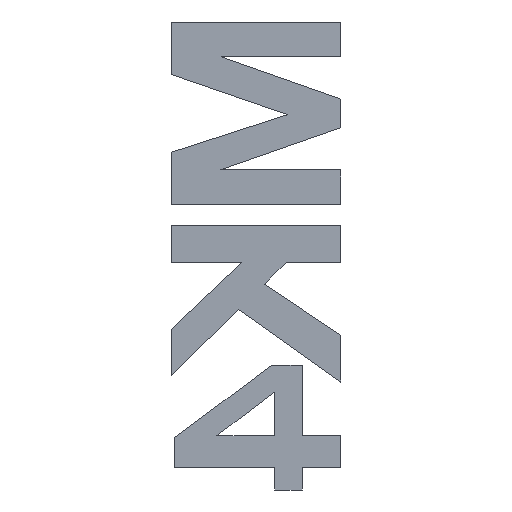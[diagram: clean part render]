
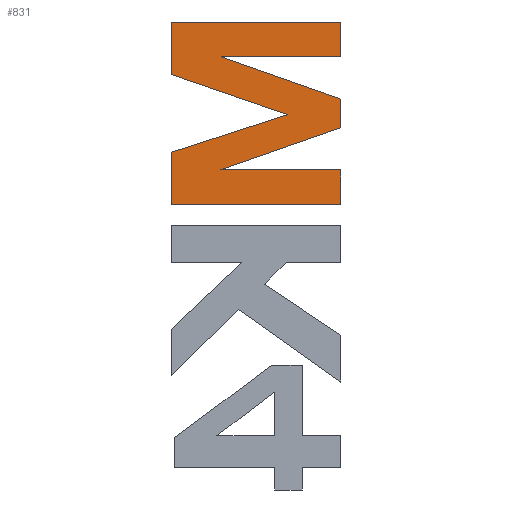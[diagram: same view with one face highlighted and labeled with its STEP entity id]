
A CAD part, front view. The second image highlights one B-rep face of the part: STEP entity #831.
In plain terms, the highlighted planar face has unit normal (0, -1, 0).
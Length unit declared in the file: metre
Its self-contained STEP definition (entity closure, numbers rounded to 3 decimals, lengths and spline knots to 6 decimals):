
#68=ORIENTED_EDGE('',*,*,#256,.T.);
#69=ORIENTED_EDGE('',*,*,#288,.T.);
#70=ORIENTED_EDGE('',*,*,#285,.T.);
#71=ORIENTED_EDGE('',*,*,#282,.T.);
#72=ORIENTED_EDGE('',*,*,#279,.T.);
#73=ORIENTED_EDGE('',*,*,#277,.F.);
#74=ORIENTED_EDGE('',*,*,#253,.F.);
#75=ORIENTED_EDGE('',*,*,#274,.F.);
#76=ORIENTED_EDGE('',*,*,#272,.F.);
#77=ORIENTED_EDGE('',*,*,#269,.F.);
#78=ORIENTED_EDGE('',*,*,#266,.F.);
#79=ORIENTED_EDGE('',*,*,#263,.F.);
#80=ORIENTED_EDGE('',*,*,#260,.F.);
#253=EDGE_CURVE('',#370,#368,#448,.T.);
#256=EDGE_CURVE('',#374,#373,#451,.T.);
#260=EDGE_CURVE('',#374,#376,#455,.T.);
#263=EDGE_CURVE('',#376,#378,#458,.T.);
#266=EDGE_CURVE('',#378,#380,#461,.T.);
#269=EDGE_CURVE('',#380,#382,#464,.T.);
#272=EDGE_CURVE('',#382,#384,#467,.T.);
#274=EDGE_CURVE('',#384,#370,#469,.T.);
#277=EDGE_CURVE('',#368,#386,#472,.T.);
#279=EDGE_CURVE('',#388,#386,#474,.T.);
#282=EDGE_CURVE('',#390,#388,#477,.T.);
#285=EDGE_CURVE('',#392,#390,#480,.T.);
#288=EDGE_CURVE('',#373,#392,#483,.T.);
#368=VERTEX_POINT('',#1162);
#370=VERTEX_POINT('',#1166);
#373=VERTEX_POINT('',#1173);
#374=VERTEX_POINT('',#1175);
#376=VERTEX_POINT('',#1180);
#378=VERTEX_POINT('',#1186);
#380=VERTEX_POINT('',#1192);
#382=VERTEX_POINT('',#1198);
#384=VERTEX_POINT('',#1204);
#386=VERTEX_POINT('',#1213);
#388=VERTEX_POINT('',#1220);
#390=VERTEX_POINT('',#1226);
#392=VERTEX_POINT('',#1232);
#448=LINE('',#1167,#565);
#451=LINE('',#1174,#568);
#455=LINE('',#1182,#572);
#458=LINE('',#1188,#575);
#461=LINE('',#1194,#578);
#464=LINE('',#1200,#581);
#467=LINE('',#1206,#584);
#469=LINE('',#1209,#586);
#472=LINE('',#1215,#589);
#474=LINE('',#1219,#591);
#477=LINE('',#1225,#594);
#480=LINE('',#1231,#597);
#483=LINE('',#1236,#600);
#565=VECTOR('',#952,1.);
#568=VECTOR('',#957,1.);
#572=VECTOR('',#963,1.);
#575=VECTOR('',#968,1.);
#578=VECTOR('',#973,1.);
#581=VECTOR('',#978,1.);
#584=VECTOR('',#983,1.);
#586=VECTOR('',#987,1.);
#589=VECTOR('',#992,1.);
#591=VECTOR('',#996,1.);
#594=VECTOR('',#1001,1.);
#597=VECTOR('',#1006,1.);
#600=VECTOR('',#1011,1.);
#692=EDGE_LOOP('',(#68,#69,#70,#71,#72,#73,#74,#75,#76,#77,#78,#79,#80));
#739=FACE_BOUND('',#692,.T.);
#786=PLANE('',#911);
#831=ADVANCED_FACE('',(#739),#786,.F.);
#911=AXIS2_PLACEMENT_3D('',#1237,#1012,#1013);
#952=DIRECTION('',(0.,0.,-1.));
#957=DIRECTION('',(0.,0.,1.));
#963=DIRECTION('',(-1.,0.,0.));
#968=DIRECTION('',(0.,0.,1.));
#973=DIRECTION('',(0.952,0.,0.306));
#978=DIRECTION('',(-0.946,0.,0.325));
#983=DIRECTION('',(0.,0.,1.));
#987=DIRECTION('',(1.,0.,0.));
#992=DIRECTION('',(-1.,0.,0.));
#996=DIRECTION('',(-0.943,0.,0.333));
#1001=DIRECTION('',(0.,0.,1.));
#1006=DIRECTION('',(0.944,0.,0.33));
#1011=DIRECTION('',(-1.,0.,0.));
#1012=DIRECTION('',(0.,1.,0.));
#1013=DIRECTION('',(-1.,0.,0.));
#1162=CARTESIAN_POINT('',(0.078099,-0.0005,0.095124));
#1166=CARTESIAN_POINT('',(0.078099,-0.0005,0.096452));
#1167=CARTESIAN_POINT('',(0.078099,-0.0005,0.095788));
#1173=CARTESIAN_POINT('',(0.078099,-0.0005,0.090834));
#1174=CARTESIAN_POINT('',(0.078099,-0.0005,0.09017));
#1175=CARTESIAN_POINT('',(0.078099,-0.0005,0.089506));
#1180=CARTESIAN_POINT('',(0.07165,-0.0005,0.089506));
#1182=CARTESIAN_POINT('',(0.074874,-0.0005,0.089506));
#1186=CARTESIAN_POINT('',(0.07165,-0.0005,0.091502));
#1188=CARTESIAN_POINT('',(0.07165,-0.0005,0.090504));
#1192=CARTESIAN_POINT('',(0.076085,-0.0005,0.092929));
#1194=CARTESIAN_POINT('',(0.073867,-0.0005,0.092216));
#1198=CARTESIAN_POINT('',(0.07165,-0.0005,0.094456));
#1200=CARTESIAN_POINT('',(0.073867,-0.0005,0.093693));
#1204=CARTESIAN_POINT('',(0.07165,-0.0005,0.096452));
#1206=CARTESIAN_POINT('',(0.07165,-0.0005,0.095454));
#1209=CARTESIAN_POINT('',(0.074874,-0.0005,0.096452));
#1213=CARTESIAN_POINT('',(0.073573,-0.0005,0.095124));
#1215=CARTESIAN_POINT('',(0.075836,-0.0005,0.095124));
#1219=CARTESIAN_POINT('',(0.075836,-0.0005,0.094325));
#1220=CARTESIAN_POINT('',(0.078099,-0.0005,0.093525));
#1225=CARTESIAN_POINT('',(0.078099,-0.0005,0.092979));
#1226=CARTESIAN_POINT('',(0.078099,-0.0005,0.092432));
#1231=CARTESIAN_POINT('',(0.075814,-0.0005,0.091633));
#1232=CARTESIAN_POINT('',(0.073528,-0.0005,0.090834));
#1236=CARTESIAN_POINT('',(0.075814,-0.0005,0.090834));
#1237=CARTESIAN_POINT('',(0.074874,-0.0005,0.087559));
